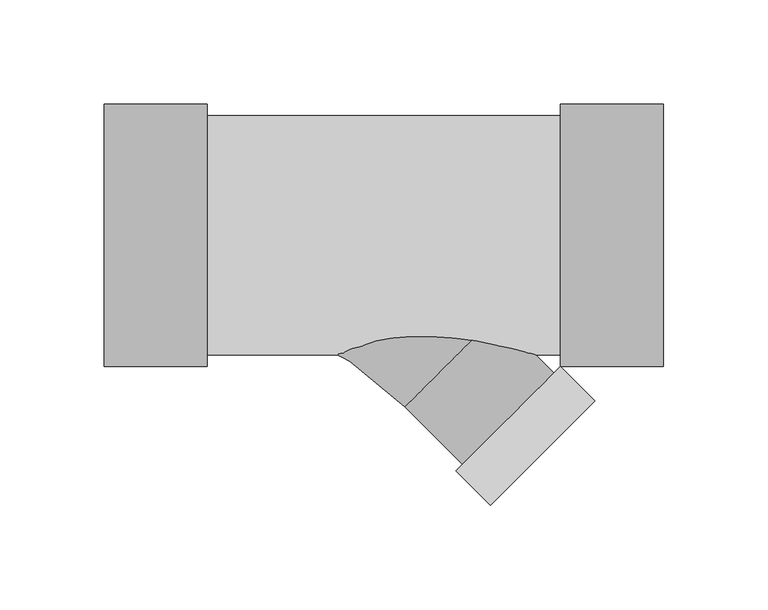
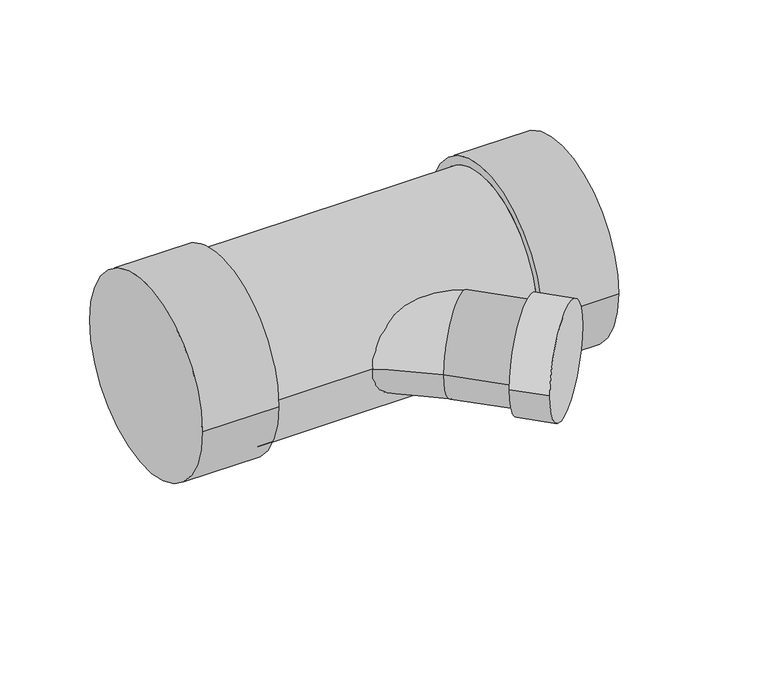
"""IFC4 building model written with IfcOpenShell, lengths in millimetres: pipe fitting geometry, M_Sanitario con te de reducción - PVC - Serie 40 - DWV : Estándar."""

from ifc_helpers import new_model, si_unit, point, frame, origin, place, context, project, spatial, circle_curve, ellipse_curve, trimmed, source, transform, mapped, element, save
from ifc_brep_helpers import plane_surface, cylinder_surface, revolved_surface, advanced_brep


def pipe_fitting_ef5974f2(model_context):
    return source(origin(), model_context, "Body", "AdvancedBrep", [
        advanced_brep(
        [(112.9412942, -62.8511094, 0.0), (112.9412942, 62.8511094, 0.0), (112.9412942, -57.3960625, 0.0), (112.9412942, 57.3960625, 0.0), (162.1776067, -62.8511094, 0.0), (162.1776067, 62.8511094, 0.0), (-56.5584022, 57.3960625, 0.0), (-56.5584022, -57.3960625, 0.0), (-105.7947148, -62.8511094, 0.0), (-105.7947147, 62.8511094, 0.0), (-56.5584023, -62.8511094, 0.0), (-56.5584022, 62.8511094, 0.0)],
        [
            (0, 1, circle_curve(frame((112.9412942, 0.0, 0.0), z_axis=(-1.0, 0.0, 0.0), x_axis=(0.0, 1.0, 0.0)), 62.8511094)),
            (1, 0, circle_curve(frame((112.9412942, 0.0, 0.0), z_axis=(-1.0, 0.0, 0.0), x_axis=(0.0, 1.0, 0.0)), 62.8511094)),
            (2, 3, circle_curve(frame((112.9412942, 0.0, 0.0), z_axis=(1.0, 0.0, 0.0), x_axis=(0.0, 0.0, -1.0)), 57.3960625)),
            (3, 2, circle_curve(frame((112.9412942, 0.0, 0.0), z_axis=(1.0, 0.0, 0.0), x_axis=(0.0, 0.0, 1.0)), 57.3960625)),
            (4, 5, circle_curve(frame((162.1776067, 0.0, 0.0), z_axis=(1.0, 0.0, 0.0), x_axis=(0.0, 1.0, 0.0)), 62.8511094)),
            (5, 4, circle_curve(frame((162.1776067, 0.0, 0.0), z_axis=(1.0, 0.0, 0.0), x_axis=(0.0, 1.0, 0.0)), 62.8511094)),
            (0, 4),
            (5, 1),
            (6, 3),
            (2, 7),
            (7, 6, circle_curve(frame((-56.5584023, 0.0, 0.0), z_axis=(1.0, 0.0, 0.0), x_axis=(0.0, 0.0, -1.0)), 57.3960625)),
            (6, 7, circle_curve(frame((-56.5584022, 0.0, 0.0), z_axis=(1.0, 0.0, 0.0), x_axis=(0.0, 0.0, 1.0)), 57.3960625)),
            (8, 9, circle_curve(frame((-105.7947147, 0.0, 0.0), z_axis=(-1.0, 0.0, 0.0), x_axis=(0.0, 1.0, 0.0)), 62.8511094)),
            (9, 8, circle_curve(frame((-105.7947147, 0.0, 0.0), z_axis=(-1.0, 0.0, 0.0), x_axis=(0.0, 1.0, 0.0)), 62.8511094)),
            (10, 11, circle_curve(frame((-56.5584022, 0.0, 0.0), z_axis=(1.0, 0.0, 0.0), x_axis=(0.0, 1.0, 0.0)), 62.8511094)),
            (11, 10, circle_curve(frame((-56.5584022, 0.0, 0.0), z_axis=(1.0, 0.0, 0.0), x_axis=(0.0, 1.0, 0.0)), 62.8511094)),
            (8, 10),
            (11, 9),
        ],
        [
            plane_surface(frame((112.9412942, 0.0, 0.0), z_axis=(-1.0, 0.0, 0.0), x_axis=(0.0, 0.0, 1.0))),
            plane_surface(frame((162.1776067, 0.0, 0.0), z_axis=(1.0, 0.0, 0.0), x_axis=(0.0, 0.0, 1.0))),
            cylinder_surface(frame((112.9412942, 0.0, 0.0), z_axis=(-1.0, 0.0, 0.0), x_axis=(0.0, 1.0, 0.0)), 62.8511094),
            cylinder_surface(frame((-56.5584022, 0.0, 0.0), z_axis=(1.0, 0.0, 0.0), x_axis=(0.0, 0.0, -1.0)), 57.3960625),
            cylinder_surface(frame((-56.5584022, 0.0, 0.0), z_axis=(1.0, 0.0, 0.0), x_axis=(0.0, 0.0, 1.0)), 57.3960625),
            plane_surface(frame((-105.7947147, 0.0, 0.0), z_axis=(-1.0, 0.0, 0.0), x_axis=(0.0, 0.0, 1.0))),
            plane_surface(frame((-56.5584022, 0.0, 0.0), z_axis=(1.0, 0.0, 0.0), x_axis=(0.0, 0.0, 1.0))),
            cylinder_surface(frame((-105.7947147, 0.0, 0.0), z_axis=(-1.0, 0.0, 0.0), x_axis=(0.0, 1.0, 0.0)), 62.8511094),
        ],
        [
            (0, [[1, 2], [3, 4]]),
            (1, [[5, 6]]),
            (2, [[-1, 7, -6, 8]]),
            (2, [[-2, -8, -5, -7]]),
            (3, [[9, -3, 10, 11]]),
            (4, [[-9, 12, -10, -4]]),
            (5, [[13, 14]]),
            (6, [[15, 16], [-11, -12]]),
            (7, [[-13, 17, -16, 18]]),
            (7, [[-14, -18, -15, -17]]),
        ],
    ),
        advanced_brep(
        [(129.4369022, -79.3467173, 0.0), (79.3467173, -129.4369022, 0.0), (60.3781908, -60.3781908, 30.9800625), (38.4719785, -82.284403, 0.0), (65.9899895, -109.8024141, 0.0), (109.8024141, -65.9899895, 0.0), (82.284403, -38.4719785, 0.0), (60.3781908, -60.3781908, -30.9800625), (-85.3876562, -30.9800625, 0.0), (-85.3876562, 30.9800625, 0.0), (112.9412942, -62.8511094, 0.0), (62.8511094, -112.9412942, 0.0)],
        [
            (0, 1, circle_curve(frame((104.3918098, -104.3918098, 0.0), z_axis=(0.7071067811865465, -0.7071067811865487, 0.0), x_axis=(-0.7071067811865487, -0.7071067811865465, 0.0)), 35.4191094)),
            (1, 0, circle_curve(frame((104.3918098, -104.3918098, 0.0), z_axis=(0.7071067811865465, -0.7071067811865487, 0.0), x_axis=(-0.7071067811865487, -0.7071067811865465, 0.0)), 35.4191094)),
            (2, 3, circle_curve(frame((60.3781908, -60.3781908, 0.0), z_axis=(0.7071067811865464, -0.7071067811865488, 0.0), x_axis=(0.7071067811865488, 0.7071067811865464, 0.0)), 30.9800625)),
            (3, 4),
            (4, 5, circle_curve(frame((87.8962018, -87.8962018, 0.0), z_axis=(-0.7071067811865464, 0.7071067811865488, 0.0), x_axis=(0.7071067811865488, 0.7071067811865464, 0.0)), 30.9800625)),
            (5, 6),
            (6, 2, circle_curve(frame((60.3781908, -60.3781908, 0.0), z_axis=(0.7071067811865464, -0.7071067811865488, 0.0), x_axis=(0.7071067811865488, 0.7071067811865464, 0.0)), 30.9800625)),
            (3, 7, circle_curve(frame((60.3781908, -60.3781908, 0.0), z_axis=(0.7071067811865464, -0.7071067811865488, 0.0), x_axis=(0.7071067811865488, 0.7071067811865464, 0.0)), 30.9800625)),
            (7, 6, circle_curve(frame((60.3781908, -60.3781908, 0.0), z_axis=(0.7071067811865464, -0.7071067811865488, 0.0), x_axis=(0.7071067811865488, 0.7071067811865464, 0.0)), 30.9800625)),
            (5, 4, circle_curve(frame((87.8962018, -87.8962018, 0.0), z_axis=(-0.7071067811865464, 0.7071067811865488, 0.0), x_axis=(0.7071067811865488, 0.7071067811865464, 0.0)), 30.9800625)),
            (8, 9, circle_curve(frame((-85.3876562, 0.0, 0.0), z_axis=(-1.0, 0.0, 0.0), x_axis=(0.0, 1.0, 0.0)), 30.9800625)),
            (9, 8, circle_curve(frame((-85.3876562, 0.0, 0.0), z_axis=(-1.0, 0.0, 0.0), x_axis=(0.0, 1.0, 0.0)), 30.9800625)),
            (8, 3, circle_curve(frame((-85.3876562, -206.1440378, 0.0), z_axis=(0.0, 0.0, -1.0), x_axis=(0.0, 1.0, 0.0)), 175.1639753)),
            (6, 9, circle_curve(frame((-85.3876562, -206.1440378, 0.0), z_axis=(0.0, 0.0, 1.0), x_axis=(0.0, 1.0, 0.0)), 237.1241003)),
            (10, 11, circle_curve(frame((87.8962018, -87.8962018, 0.0), z_axis=(-0.7071067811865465, 0.7071067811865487, 0.0), x_axis=(-0.7071067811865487, -0.7071067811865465, 0.0)), 35.4191094)),
            (11, 10, circle_curve(frame((87.8962018, -87.8962018, 0.0), z_axis=(-0.7071067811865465, 0.7071067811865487, 0.0), x_axis=(-0.7071067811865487, -0.7071067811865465, 0.0)), 35.4191094)),
            (0, 10),
            (11, 1),
        ],
        [
            plane_surface(frame((104.3918098, -104.3918098, 0.0), z_axis=(0.7071067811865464, -0.7071067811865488, 0.0), x_axis=(0.0, 0.0, 1.0))),
            cylinder_surface(frame((60.3781908, -60.3781908, 0.0), z_axis=(-0.7071067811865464, 0.7071067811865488, 0.0), x_axis=(0.7071067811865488, 0.7071067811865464, 0.0)), 30.9800625),
            plane_surface(frame((-85.3876562, 0.0, 0.0), z_axis=(-1.0, 0.0, 0.0), x_axis=(0.0, 0.0, 1.0))),
            revolved_surface(trimmed(ellipse_curve(frame((-85.3876562, 0.0, 0.0), z_axis=(-1.0, 0.0, 0.0), x_axis=(0.0, 1.0, 0.0)), 30.9800625, 30.9800625), [point((-85.3876562, -30.9800625, 0.0))], [point((-85.3876562, 30.9800625, 0.0))], True, "CARTESIAN"), (-85.3876562, -206.1440378, 0.0), (0.0, 0.0, -1.0)),
            revolved_surface(trimmed(ellipse_curve(frame((-85.3876562, 0.0, 0.0), z_axis=(-1.0, 0.0, 0.0), x_axis=(0.0, 1.0, 0.0)), 30.9800625, 30.9800625), [point((-85.3876562, 30.9800625, 0.0))], [point((-85.3876562, -30.9800625, 0.0))], True, "CARTESIAN"), (-85.3876562, -206.1440378, 0.0), (0.0, 0.0, -1.0)),
            plane_surface(frame((87.8962018, -87.8962018, 0.0), z_axis=(-0.7071067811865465, 0.7071067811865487, 0.0), x_axis=(0.0, 0.0, 1.0))),
            cylinder_surface(frame((104.3918098, -104.3918098, 0.0), z_axis=(0.7071067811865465, -0.7071067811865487, 0.0), x_axis=(-0.7071067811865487, -0.7071067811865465, 0.0)), 35.4191094),
        ],
        [
            (0, [[1, 2]]),
            (1, [[3, 4, 5, 6, 7]]),
            (1, [[8, 9, -6, 10, -4]]),
            (2, [[11, 12]]),
            (3, [[-11, 13, -3, -7, 14]]),
            (4, [[-12, -14, -9, -8, -13]]),
            (5, [[15, 16], [-5, -10]]),
            (6, [[-1, 17, -16, 18]]),
            (6, [[-2, -18, -15, -17]]),
        ],
    ),
    ])


if __name__ == "__main__":
    model = new_model("IFC4")
    model_context = context("Model", 3, world=origin())
    ifc_project = project(units=[si_unit("LENGTHUNIT", "METRE", prefix="MILLI")], contexts=[model_context])
    site = spatial("IfcSite", under=ifc_project)
    building = spatial("IfcBuilding", under=site)
    placement = place(None, origin())
    pipe_fitting_shape = pipe_fitting_ef5974f2(model_context)
    element("IfcPipeFitting", 1, ObjectType="M_Sanitario con te de reducción - PVC - Serie 40 - DWV : Estándar", at=placement, inside=building, context=model_context, shape_type="MappedRepresentation", body=[
        mapped(pipe_fitting_shape, transform((0.0, 0.0, 0.0), x_axis=(1.0, 0.0, 0.0), y_axis=(0.0, 1.0, 0.0), z_axis=(0.0, 0.0, 1.0))),
    ])
    save(model, "model.ifc")
